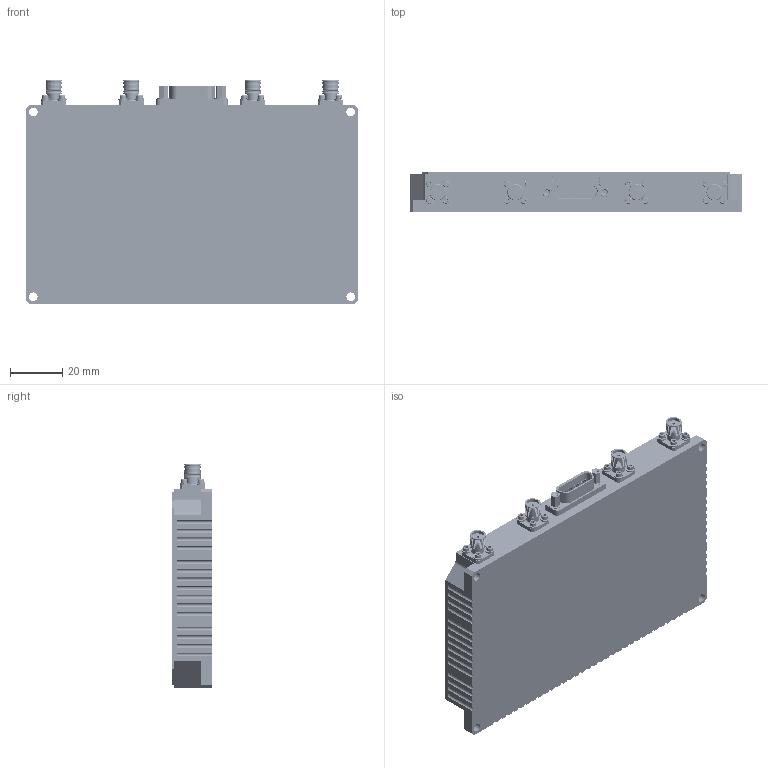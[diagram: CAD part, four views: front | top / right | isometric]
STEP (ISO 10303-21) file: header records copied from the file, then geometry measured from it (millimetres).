
FILE_DESCRIPTION (( 'STEP AP214' ), '1' );
FILE_NAME ('NW-BA-DUAL-LS-20-S01.STEP', '2024-03-28T17:57:15', ( '' ), ( '' ), 'SwSTEP 2.0', 'SolidWorks 2021', '' );
FILE_SCHEMA (( 'AUTOMOTIVE_DESIGN' ));
Length unit declared in the file: inch
Products named in the file (19): ABMM-A-D - MOUNT, CABLE TIE, ADHESIVE BACKED, .75 X .75, NATURAL; NW-BA-DUAL-LS-20-S01; MDM JACK POST ASSEMBLY; A6119-1200; 91771A082 (0173399) - SCREW, PFHMS, SS, #2-56 X .563L_91771A082; 92196A054 (73379) - SCREW, SHCS, SS, #0-80 X .188L_92196A054; FS-SCREW STACK UP 0-80 x .188 long; A6036-1800; 91771A104 (71589) - SCREW, PFHMS, SS, #2-56 X .250L_91771A104; A6119-1100; A6034-1540; MDM JACK POST LOCK_98449A500; A6036-1900; 96640A023 (0145196) - SCREW, PFHMS, SS, #2-56 X .250L, BLACK OXIDE_96640A023; 92146A510 (0171926) - WASHER, SPLIT-LOCK, SS, #0, .14 OD X .01 THK_92146A510; MDM JACK POST - bill_91075A512; 901-10124_Standard; MDM21SH003; 5710-120-16 - WASHER, FLAT, SS, #0, .13 OD X .02 THK_92141A001
Assembly tree (62 placements, depth 3):
  NW-BA-DUAL-LS-20-S01
    A6119-1100
    A6119-1200
    A6034-1540  x2
    A6036-1800  x2
    A6036-1900  x2
    901-10124_Standard  x4
    FS-SCREW STACK UP 0-80 x .188 long  x16
      92196A054 (73379) - SCREW, SHCS, SS, #0-80 X .188L_92196A054
      92146A510 (0171926) - WASHER, SPLIT-LOCK, SS, #0, .14 OD X .01 THK_92146A510
      5710-120-16 - WASHER, FLAT, SS, #0, .13 OD X .02 THK_92141A001
    96640A023 (0145196) - SCREW, PFHMS, SS, #2-56 X .250L, BLACK OXIDE_96640A023  x4
    91771A082 (0173399) - SCREW, PFHMS, SS, #2-56 X .563L_91771A082  x13
    MDM JACK POST ASSEMBLY  x2
      MDM JACK POST - bill_91075A512
      MDM JACK POST LOCK_98449A500
    MDM21SH003
    91771A104 (71589) - SCREW, PFHMS, SS, #2-56 X .250L_91771A104  x8
    ABMM-A-D - MOUNT, CABLE TIE, ADHESIVE BACKED, .75 X .75, NATURAL
Bounding box: 127 x 15.24 x 85.68 mm (x, y, z)
Volume: 65677 mm3; surface area: 73384.9 mm2
Topology: 96 solids, 96 shells, 7938 faces, 21251 edges, 13763 vertices
Faces by surface type: cylinder 3414, plane 2198, cone 1159, bspline 1011, torus 156
Entity records: 226229 total; most frequent: CARTESIAN_POINT 123571, ORIENTED_EDGE 19894, DIRECTION 15227, EDGE_CURVE 9947, VERTEX_POINT 6547, VECTOR 5567, LINE 5567, AXIS2_PLACEMENT_3D 4830
